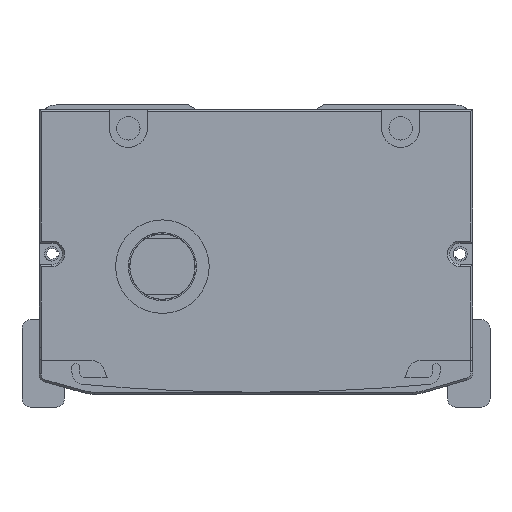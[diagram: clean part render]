
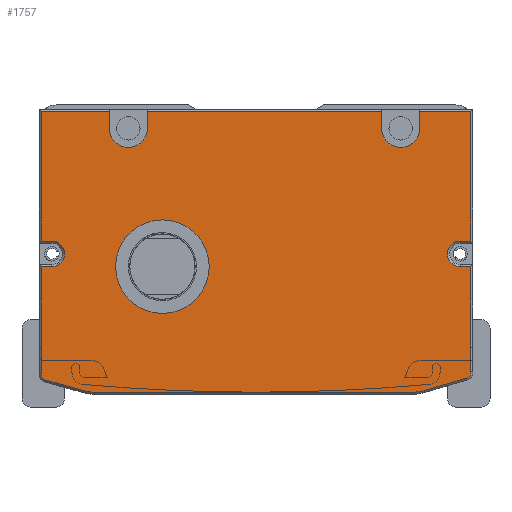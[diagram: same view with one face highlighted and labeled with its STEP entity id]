
A CAD part, front view. The second image highlights one B-rep face of the part: STEP entity #1757.
In plain terms, the highlighted planar face has unit normal (0, -1, 0).
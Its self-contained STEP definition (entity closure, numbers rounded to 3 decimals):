
#1034=FACE_BOUND('',#3651,.T.);
#1035=FACE_BOUND('',#3652,.T.);
#1757=ADVANCED_FACE('',(#1034,#1035),#2480,.F.);
#2480=PLANE('',#14782);
#3651=EDGE_LOOP('',(#6605));
#3652=EDGE_LOOP('',(#6606,#6607,#6608,#6609,#6610,#6611,#6612,#6613,#6614,
#6615,#6616,#6617,#6618,#6619,#6620,#6621,#6622,#6623,#6624,#6625,#6626,
#6627,#6628,#6629,#6630,#6631,#6632,#6633));
#4681=CIRCLE('',#14693,3.);
#4684=CIRCLE('',#14701,3.);
#4687=CIRCLE('',#14713,1.5);
#4689=CIRCLE('',#14717,9.5);
#4691=CIRCLE('',#14721,9.5);
#4693=CIRCLE('',#14725,1.5);
#4698=CIRCLE('',#14740,4.5);
#4702=CIRCLE('',#14746,4.5);
#4703=CIRCLE('',#14755,11.);
#6605=ORIENTED_EDGE('',*,*,#11184,.F.);
#6606=ORIENTED_EDGE('',*,*,#11078,.T.);
#6607=ORIENTED_EDGE('',*,*,#10974,.T.);
#6608=ORIENTED_EDGE('',*,*,#11165,.T.);
#6609=ORIENTED_EDGE('',*,*,#10978,.T.);
#6610=ORIENTED_EDGE('',*,*,#11213,.T.);
#6611=ORIENTED_EDGE('',*,*,#10984,.T.);
#6612=ORIENTED_EDGE('',*,*,#11161,.T.);
#6613=ORIENTED_EDGE('',*,*,#10988,.T.);
#6614=ORIENTED_EDGE('',*,*,#11214,.T.);
#6615=ORIENTED_EDGE('',*,*,#11082,.T.);
#6616=ORIENTED_EDGE('',*,*,#11088,.T.);
#6617=ORIENTED_EDGE('',*,*,#11091,.T.);
#6618=ORIENTED_EDGE('',*,*,#11094,.T.);
#6619=ORIENTED_EDGE('',*,*,#11096,.T.);
#6620=ORIENTED_EDGE('',*,*,#11126,.T.);
#6621=ORIENTED_EDGE('',*,*,#11130,.T.);
#6622=ORIENTED_EDGE('',*,*,#11133,.T.);
#6623=ORIENTED_EDGE('',*,*,#11136,.T.);
#6624=ORIENTED_EDGE('',*,*,#11139,.T.);
#6625=ORIENTED_EDGE('',*,*,#11142,.T.);
#6626=ORIENTED_EDGE('',*,*,#11145,.T.);
#6627=ORIENTED_EDGE('',*,*,#11147,.T.);
#6628=ORIENTED_EDGE('',*,*,#11124,.T.);
#6629=ORIENTED_EDGE('',*,*,#11114,.T.);
#6630=ORIENTED_EDGE('',*,*,#11111,.T.);
#6631=ORIENTED_EDGE('',*,*,#11108,.T.);
#6632=ORIENTED_EDGE('',*,*,#11105,.T.);
#6633=ORIENTED_EDGE('',*,*,#11100,.T.);
#9491=VERTEX_POINT('',#21787);
#9492=VERTEX_POINT('',#21789);
#9495=VERTEX_POINT('',#21796);
#9496=VERTEX_POINT('',#21798);
#9501=VERTEX_POINT('',#21809);
#9502=VERTEX_POINT('',#21811);
#9505=VERTEX_POINT('',#21818);
#9506=VERTEX_POINT('',#21820);
#9564=VERTEX_POINT('',#22006);
#9567=VERTEX_POINT('',#22014);
#9568=VERTEX_POINT('',#22015);
#9573=VERTEX_POINT('',#22026);
#9575=VERTEX_POINT('',#22032);
#9576=VERTEX_POINT('',#22037);
#9578=VERTEX_POINT('',#22043);
#9581=VERTEX_POINT('',#22051);
#9583=VERTEX_POINT('',#22057);
#9585=VERTEX_POINT('',#22063);
#9587=VERTEX_POINT('',#22069);
#9589=VERTEX_POINT('',#22075);
#9596=VERTEX_POINT('',#22099);
#9597=VERTEX_POINT('',#22103);
#9600=VERTEX_POINT('',#22110);
#9602=VERTEX_POINT('',#22116);
#9604=VERTEX_POINT('',#22122);
#9606=VERTEX_POINT('',#22128);
#9608=VERTEX_POINT('',#22134);
#9610=VERTEX_POINT('',#22140);
#9622=VERTEX_POINT('',#22213);
#10974=EDGE_CURVE('',#9492,#9491,#12639,.T.);
#10978=EDGE_CURVE('',#9496,#9495,#12643,.T.);
#10984=EDGE_CURVE('',#9502,#9501,#12649,.T.);
#10988=EDGE_CURVE('',#9506,#9505,#12653,.T.);
#11078=EDGE_CURVE('',#9564,#9492,#12726,.T.);
#11082=EDGE_CURVE('',#9567,#9568,#12730,.T.);
#11088=EDGE_CURVE('',#9568,#9573,#12736,.T.);
#11091=EDGE_CURVE('',#9573,#9575,#4681,.T.);
#11094=EDGE_CURVE('',#9575,#9576,#12740,.T.);
#11096=EDGE_CURVE('',#9576,#9578,#12742,.T.);
#11100=EDGE_CURVE('',#9581,#9564,#12746,.T.);
#11105=EDGE_CURVE('',#9583,#9581,#12751,.T.);
#11108=EDGE_CURVE('',#9585,#9583,#4684,.T.);
#11111=EDGE_CURVE('',#9587,#9585,#12755,.T.);
#11114=EDGE_CURVE('',#9589,#9587,#12758,.T.);
#11124=EDGE_CURVE('',#9596,#9589,#12766,.T.);
#11126=EDGE_CURVE('',#9578,#9597,#12768,.T.);
#11130=EDGE_CURVE('',#9597,#9600,#4687,.T.);
#11133=EDGE_CURVE('',#9600,#9602,#12773,.T.);
#11136=EDGE_CURVE('',#9602,#9604,#4689,.T.);
#11139=EDGE_CURVE('',#9604,#9606,#12777,.T.);
#11142=EDGE_CURVE('',#9606,#9608,#4691,.T.);
#11145=EDGE_CURVE('',#9608,#9610,#12781,.T.);
#11147=EDGE_CURVE('',#9610,#9596,#4693,.T.);
#11161=EDGE_CURVE('',#9501,#9506,#4698,.T.);
#11165=EDGE_CURVE('',#9491,#9496,#4702,.T.);
#11184=EDGE_CURVE('',#9622,#9622,#4703,.T.);
#11213=EDGE_CURVE('',#9495,#9502,#12832,.T.);
#11214=EDGE_CURVE('',#9505,#9567,#12833,.T.);
#12639=LINE('',#21788,#13581);
#12643=LINE('',#21797,#13585);
#12649=LINE('',#21810,#13591);
#12653=LINE('',#21819,#13595);
#12726=LINE('',#22005,#13668);
#12730=LINE('',#22013,#13672);
#12736=LINE('',#22027,#13678);
#12740=LINE('',#22039,#13682);
#12742=LINE('',#22042,#13684);
#12746=LINE('',#22050,#13688);
#12751=LINE('',#22060,#13693);
#12755=LINE('',#22072,#13697);
#12758=LINE('',#22078,#13700);
#12766=LINE('',#22098,#13708);
#12768=LINE('',#22102,#13710);
#12773=LINE('',#22117,#13715);
#12777=LINE('',#22129,#13719);
#12781=LINE('',#22141,#13723);
#12832=LINE('',#22275,#13774);
#12833=LINE('',#22276,#13775);
#13581=VECTOR('',#16945,1.);
#13585=VECTOR('',#16951,1.);
#13591=VECTOR('',#16959,1.);
#13595=VECTOR('',#16965,1.);
#13668=VECTOR('',#17132,1.);
#13672=VECTOR('',#17138,1.);
#13678=VECTOR('',#17146,1.);
#13682=VECTOR('',#17158,1.);
#13684=VECTOR('',#17162,1.);
#13688=VECTOR('',#17168,1.);
#13693=VECTOR('',#17175,1.);
#13697=VECTOR('',#17187,1.);
#13700=VECTOR('',#17192,1.);
#13708=VECTOR('',#17214,1.);
#13710=VECTOR('',#17218,1.);
#13715=VECTOR('',#17231,1.);
#13719=VECTOR('',#17243,1.);
#13723=VECTOR('',#17255,1.);
#13774=VECTOR('',#17422,1.);
#13775=VECTOR('',#17423,1.);
#14693=AXIS2_PLACEMENT_3D('',#22033,#17151,#17152);
#14701=AXIS2_PLACEMENT_3D('',#22066,#17181,#17182);
#14713=AXIS2_PLACEMENT_3D('',#22111,#17224,#17225);
#14717=AXIS2_PLACEMENT_3D('',#22123,#17236,#17237);
#14721=AXIS2_PLACEMENT_3D('',#22135,#17248,#17249);
#14725=AXIS2_PLACEMENT_3D('',#22144,#17259,#17260);
#14740=AXIS2_PLACEMENT_3D('',#22170,#17298,#17299);
#14746=AXIS2_PLACEMENT_3D('',#22178,#17310,#17311);
#14755=AXIS2_PLACEMENT_3D('',#22212,#17346,#17347);
#14782=AXIS2_PLACEMENT_3D('',#22277,#17424,#17425);
#16945=DIRECTION('',(0.,0.,-1.));
#16951=DIRECTION('',(0.,0.,1.));
#16959=DIRECTION('',(0.,0.,-1.));
#16965=DIRECTION('',(0.,0.,1.));
#17132=DIRECTION('',(-1.,0.,0.));
#17138=DIRECTION('',(0.,0.,-1.));
#17146=DIRECTION('',(1.,0.,0.));
#17151=DIRECTION('',(0.,1.,0.));
#17152=DIRECTION('',(0.,0.,1.));
#17158=DIRECTION('',(-1.,0.,0.));
#17162=DIRECTION('',(0.,0.,-1.));
#17168=DIRECTION('',(0.,0.,1.));
#17175=DIRECTION('',(1.,0.,0.));
#17181=DIRECTION('',(0.,1.,0.));
#17182=DIRECTION('',(0.,0.,1.));
#17187=DIRECTION('',(-1.,0.,0.));
#17192=DIRECTION('',(0.,0.,1.));
#17214=DIRECTION('',(0.,0.,1.));
#17218=DIRECTION('',(0.,0.,-1.));
#17224=DIRECTION('',(0.,-1.,0.));
#17225=DIRECTION('',(0.,0.,1.));
#17231=DIRECTION('',(0.963,0.,-0.269));
#17236=DIRECTION('',(0.,-1.,0.));
#17237=DIRECTION('',(0.,0.,1.));
#17243=DIRECTION('',(1.,0.,0.));
#17248=DIRECTION('',(0.,-1.,0.));
#17249=DIRECTION('',(0.,0.,1.));
#17255=DIRECTION('',(0.959,0.,0.282));
#17259=DIRECTION('',(0.,-1.,0.));
#17260=DIRECTION('',(0.,0.,1.));
#17298=DIRECTION('',(0.,1.,0.));
#17299=DIRECTION('',(0.,0.,1.));
#17310=DIRECTION('',(0.,1.,0.));
#17311=DIRECTION('',(0.,0.,1.));
#17346=DIRECTION('',(0.,-1.,0.));
#17347=DIRECTION('',(0.,0.,1.));
#17422=DIRECTION('',(-1.,0.,0.));
#17423=DIRECTION('',(-1.,0.,0.));
#17424=DIRECTION('',(0.,1.,0.));
#17425=DIRECTION('',(1.,0.,0.));
#21787=CARTESIAN_POINT('',(35.308,-557.5,-5.5));
#21788=CARTESIAN_POINT('',(35.308,-557.5,-1.));
#21789=CARTESIAN_POINT('',(35.308,-557.5,-1.5));
#21796=CARTESIAN_POINT('',(26.308,-557.5,-1.5));
#21797=CARTESIAN_POINT('',(26.308,-557.5,-1.));
#21798=CARTESIAN_POINT('',(26.308,-557.5,-5.5));
#21809=CARTESIAN_POINT('',(-28.692,-557.5,-5.5));
#21810=CARTESIAN_POINT('',(-28.692,-557.5,-1.));
#21811=CARTESIAN_POINT('',(-28.692,-557.5,-1.5));
#21818=CARTESIAN_POINT('',(-37.692,-557.5,-1.5));
#21819=CARTESIAN_POINT('',(-37.692,-557.5,-1.));
#21820=CARTESIAN_POINT('',(-37.692,-557.5,-5.5));
#22005=CARTESIAN_POINT('',(-53.692,-557.5,-1.5));
#22006=CARTESIAN_POINT('',(47.308,-557.5,-1.5));
#22013=CARTESIAN_POINT('',(-53.692,-557.5,-32.5));
#22014=CARTESIAN_POINT('',(-53.692,-557.5,-1.5));
#22015=CARTESIAN_POINT('',(-53.692,-557.5,-32.));
#22026=CARTESIAN_POINT('',(-51.192,-557.5,-32.));
#22027=CARTESIAN_POINT('',(-3.192,-557.5,-32.));
#22032=CARTESIAN_POINT('',(-51.192,-557.5,-38.));
#22033=CARTESIAN_POINT('',(-51.192,-557.5,-35.));
#22037=CARTESIAN_POINT('',(-53.692,-557.5,-38.));
#22039=CARTESIAN_POINT('',(-3.192,-557.5,-38.));
#22042=CARTESIAN_POINT('',(-53.692,-557.5,-57.));
#22043=CARTESIAN_POINT('',(-53.692,-557.5,-57.));
#22050=CARTESIAN_POINT('',(47.308,-557.5,-1.5));
#22051=CARTESIAN_POINT('',(47.308,-557.5,-32.));
#22057=CARTESIAN_POINT('',(44.808,-557.5,-32.));
#22060=CARTESIAN_POINT('',(-3.192,-557.5,-32.));
#22063=CARTESIAN_POINT('',(44.808,-557.5,-38.));
#22066=CARTESIAN_POINT('',(44.808,-557.5,-35.));
#22069=CARTESIAN_POINT('',(47.308,-557.5,-38.));
#22072=CARTESIAN_POINT('',(-3.192,-557.5,-38.));
#22075=CARTESIAN_POINT('',(47.308,-557.5,-57.));
#22078=CARTESIAN_POINT('',(47.308,-557.5,-37.5));
#22098=CARTESIAN_POINT('',(47.308,-557.5,-37.5));
#22099=CARTESIAN_POINT('',(47.308,-557.5,-62.758));
#22102=CARTESIAN_POINT('',(-53.692,-557.5,-59.712));
#22103=CARTESIAN_POINT('',(-53.692,-557.5,-63.212));
#22110=CARTESIAN_POINT('',(-52.596,-557.5,-64.657));
#22111=CARTESIAN_POINT('',(-52.192,-557.5,-63.212));
#22116=CARTESIAN_POINT('',(-43.674,-557.5,-67.15));
#22117=CARTESIAN_POINT('',(-43.674,-557.5,-67.15));
#22122=CARTESIAN_POINT('',(-41.118,-557.5,-67.5));
#22123=CARTESIAN_POINT('',(-41.118,-557.5,-58.));
#22128=CARTESIAN_POINT('',(33.631,-557.5,-67.5));
#22129=CARTESIAN_POINT('',(33.631,-557.5,-67.5));
#22134=CARTESIAN_POINT('',(36.312,-557.5,-67.114));
#22135=CARTESIAN_POINT('',(33.631,-557.5,-58.));
#22140=CARTESIAN_POINT('',(46.231,-557.5,-64.197));
#22141=CARTESIAN_POINT('',(46.231,-557.5,-64.197));
#22144=CARTESIAN_POINT('',(45.808,-557.5,-62.758));
#22170=CARTESIAN_POINT('',(-33.192,-557.5,-5.5));
#22178=CARTESIAN_POINT('',(30.808,-557.5,-5.5));
#22212=CARTESIAN_POINT('',(-25.192,-557.5,-38.));
#22213=CARTESIAN_POINT('',(-25.192,-557.5,-27.));
#22275=CARTESIAN_POINT('',(-53.692,-557.5,-1.5));
#22276=CARTESIAN_POINT('',(-53.692,-557.5,-1.5));
#22277=CARTESIAN_POINT('',(-3.192,-557.5,-1.));
